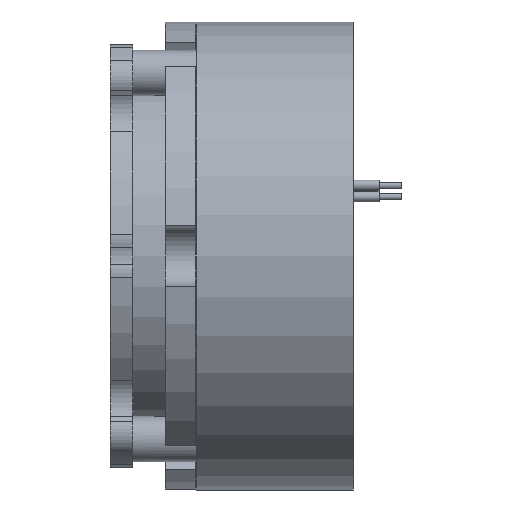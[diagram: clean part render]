
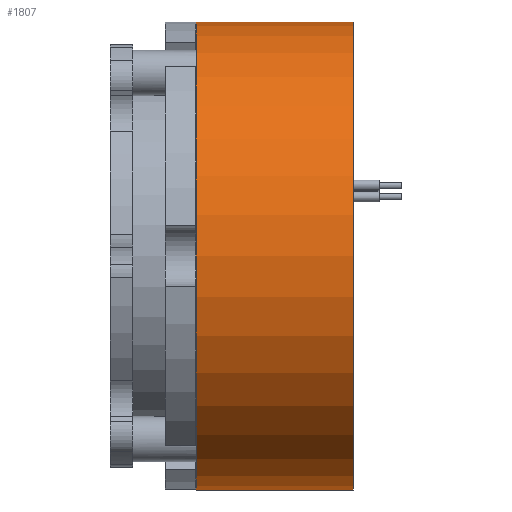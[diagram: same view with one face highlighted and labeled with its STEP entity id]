
A CAD part, front view. The second image highlights one B-rep face of the part: STEP entity #1807.
In plain terms, the highlighted cylindrical face has radius 31 mm (diameter 62 mm), a partial arc.
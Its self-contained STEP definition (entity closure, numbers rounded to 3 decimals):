
#23 = CYLINDRICAL_SURFACE ( 'NONE', #1786, 31. ) ;
#46 = FACE_OUTER_BOUND ( 'NONE', #908, .T. ) ;
#288 = ORIENTED_EDGE ( 'NONE', *, *, #627, .T. ) ;
#341 = VERTEX_POINT ( 'NONE', #1069 ) ;
#551 = CIRCLE ( 'NONE', #679, 31. ) ;
#609 = DIRECTION ( 'NONE',  ( 0., 0., 1. ) ) ;
#627 = EDGE_CURVE ( 'NONE', #341, #3151, #3024, .T. ) ;
#679 = AXIS2_PLACEMENT_3D ( 'NONE', #4313, #1289, #609 ) ;
#763 = DIRECTION ( 'NONE',  ( -1., 0., 0. ) ) ;
#908 = EDGE_LOOP ( 'NONE', ( #2446, #288, #3091, #3916 ) ) ;
#1069 = CARTESIAN_POINT ( 'NONE',  ( 20.8, 0., -31. ) ) ;
#1084 = LINE ( 'NONE', #2104, #1239 ) ;
#1089 = CARTESIAN_POINT ( 'NONE',  ( 20.8, 0., 31. ) ) ;
#1198 = EDGE_CURVE ( 'NONE', #2444, #1826, #551, .T. ) ;
#1209 = EDGE_CURVE ( 'NONE', #341, #2444, #2169, .T. ) ;
#1239 = VECTOR ( 'NONE', #4221, 1000. ) ;
#1289 = DIRECTION ( 'NONE',  ( -1., 0., 0. ) ) ;
#1721 = CARTESIAN_POINT ( 'NONE',  ( 0., 0., 31. ) ) ;
#1786 = AXIS2_PLACEMENT_3D ( 'NONE', #1896, #1920, #1938 ) ;
#1807 = ADVANCED_FACE ( 'NONE', ( #46 ), #23, .T. ) ;
#1826 = VERTEX_POINT ( 'NONE', #1721 ) ;
#1896 = CARTESIAN_POINT ( 'NONE',  ( 0., 0., 0. ) ) ;
#1920 = DIRECTION ( 'NONE',  ( -1., 0., 0. ) ) ;
#1938 = DIRECTION ( 'NONE',  ( 0., 0., 1. ) ) ;
#2037 = EDGE_CURVE ( 'NONE', #3151, #1826, #1084, .T. ) ;
#2104 = CARTESIAN_POINT ( 'NONE',  ( 0., 0., 31. ) ) ;
#2169 = LINE ( 'NONE', #2335, #2757 ) ;
#2335 = CARTESIAN_POINT ( 'NONE',  ( 0., 0., -31. ) ) ;
#2444 = VERTEX_POINT ( 'NONE', #4067 ) ;
#2446 = ORIENTED_EDGE ( 'NONE', *, *, #1209, .F. ) ;
#2757 = VECTOR ( 'NONE', #763, 1000. ) ;
#3024 = CIRCLE ( 'NONE', #3318, 31. ) ;
#3091 = ORIENTED_EDGE ( 'NONE', *, *, #2037, .T. ) ;
#3151 = VERTEX_POINT ( 'NONE', #1089 ) ;
#3318 = AXIS2_PLACEMENT_3D ( 'NONE', #3709, #3737, #3715 ) ;
#3709 = CARTESIAN_POINT ( 'NONE',  ( 20.8, 0., 0. ) ) ;
#3715 = DIRECTION ( 'NONE',  ( 0., 0., 1. ) ) ;
#3737 = DIRECTION ( 'NONE',  ( -1., 0., 0. ) ) ;
#3916 = ORIENTED_EDGE ( 'NONE', *, *, #1198, .F. ) ;
#4067 = CARTESIAN_POINT ( 'NONE',  ( 0., 0., -31. ) ) ;
#4221 = DIRECTION ( 'NONE',  ( -1., 0., 0. ) ) ;
#4313 = CARTESIAN_POINT ( 'NONE',  ( 0., 0., 0. ) ) ;
